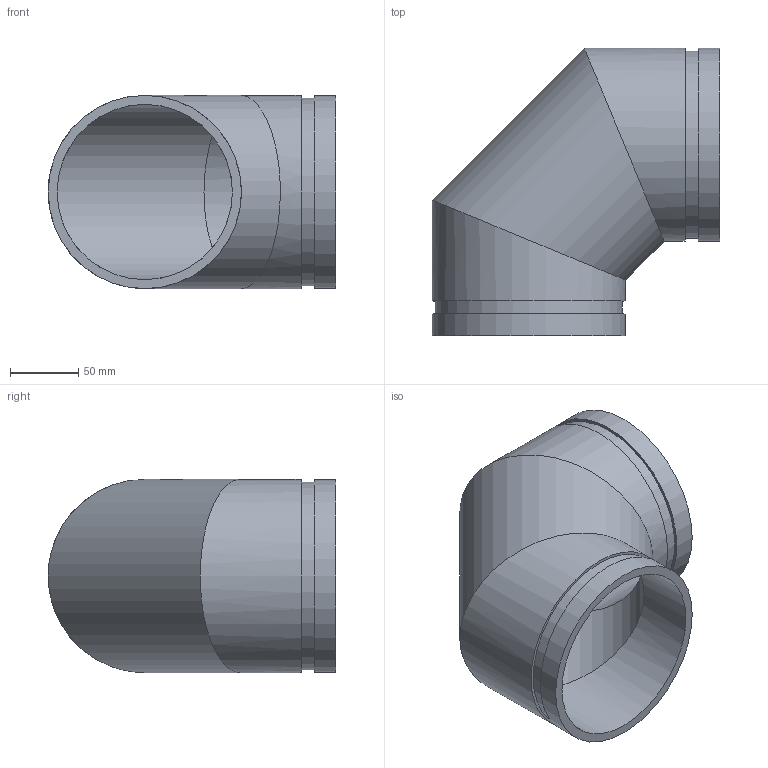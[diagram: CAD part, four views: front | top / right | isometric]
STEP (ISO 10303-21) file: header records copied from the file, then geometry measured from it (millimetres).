
FILE_DESCRIPTION(/* description */ ('VIC 90 DEG ELBOW FABRICATED No 10 SWS (OGS)','CAx-IF Rec.Pracs.---Representation and Presentation of Product Manufacturing Information (PMI)---4.0---2014-10-13'),/* implementation_level */ '2;1');
FILE_NAME(/* name */ 'C:\Users\kkamble\AppData\Roaming\Autodesk\ApplicationPlugins\Back Up\Victaulic_IPS_Elbow 90 Deg_No 10 SWS (OGS)\Victaulic_IPS_Elbow 90 Deg_No 10 SWS (OGS)_5 (125).stp',/* time_stamp */ '2020-09-16T22:17:47+06:00',/* author */ ('cgray'),/* organization */ ('Victaulic'),/* preprocessor_version */ 'ST-DEVELOPER v17.2',/* originating_system */ 'Autodesk Inventor 2019',/* authorisation */ '');
FILE_SCHEMA (('AP242_MANAGED_MODEL_BASED_3D_ENGINEERING_MIM_LF { 1 0 10303 442 1 1 4 }'));
Length unit declared in the file: inch
Products named in the file (1): 10 SWS-05.0
Bounding box: 210.35 x 210.35 x 141.3 mm (x, y, z)
Volume: 643805.5 mm3; surface area: 210933.3 mm2
Topology: 1 solids, 1 shells, 16 faces, 38 edges, 28 vertices
Faces by surface type: cylinder 10, plane 6
Full cylindrical faces by diameter (mm): 128.194 x3, 137.033 x2, 141.3 x5
Entity records: 646 total; most frequent: DIRECTION 126, CARTESIAN_POINT 100, ORIENTED_EDGE 76, AXIS2_PLACEMENT_3D 58, EDGE_CURVE 38, VERTEX_POINT 28, EDGE_LOOP 22, STYLED_ITEM 18
